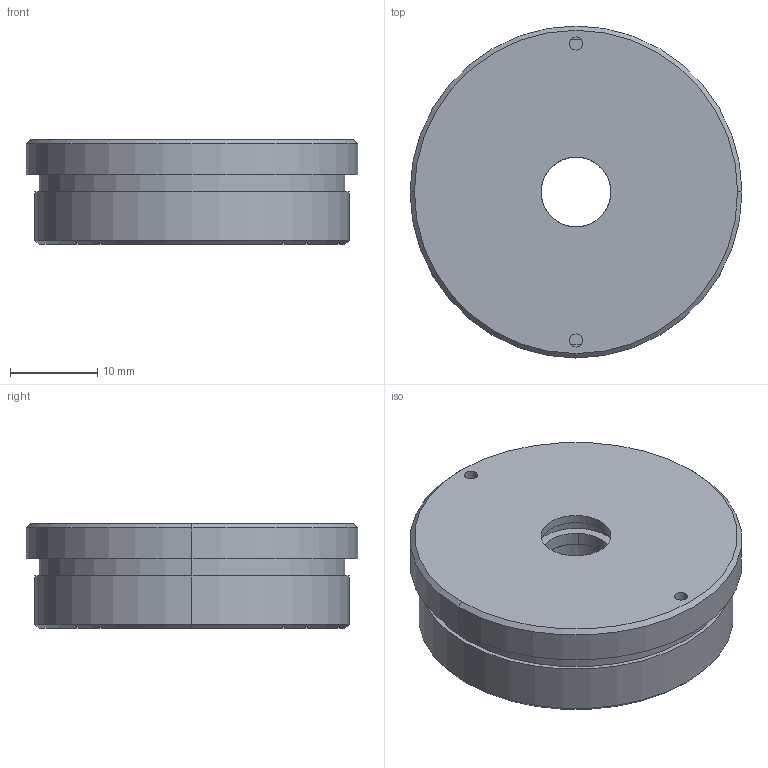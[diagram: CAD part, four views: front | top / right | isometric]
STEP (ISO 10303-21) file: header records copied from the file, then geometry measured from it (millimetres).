
FILE_DESCRIPTION (( 'STEP AP203' ), '1' );
FILE_NAME ('7MA210变径圈.STEP', '2019-10-24T07:28:25', ( '' ), ( '' ), 'SwSTEP 2.0', 'SolidWorks 2014', '' );
FILE_SCHEMA (( 'CONFIG_CONTROL_DESIGN' ));
Length unit declared in the file: millimetre
Products named in the file (1): 7MA210变径圈
Bounding box: 38 x 38 x 12 mm (x, y, z)
Surface area: 4164.7 mm2 (no closed solid volume)
Topology: 0 solids, 4 shells, 39 faces, 98 edges, 64 vertices
Faces by surface type: cylinder 20, plane 13, cone 6
Entity records: 1258 total; most frequent: DIRECTION 234, CARTESIAN_POINT 202, ORIENTED_EDGE 170, EDGE_CURVE 98, AXIS2_PLACEMENT_3D 96, VERTEX_POINT 64, CIRCLE 56, EDGE_LOOP 46
